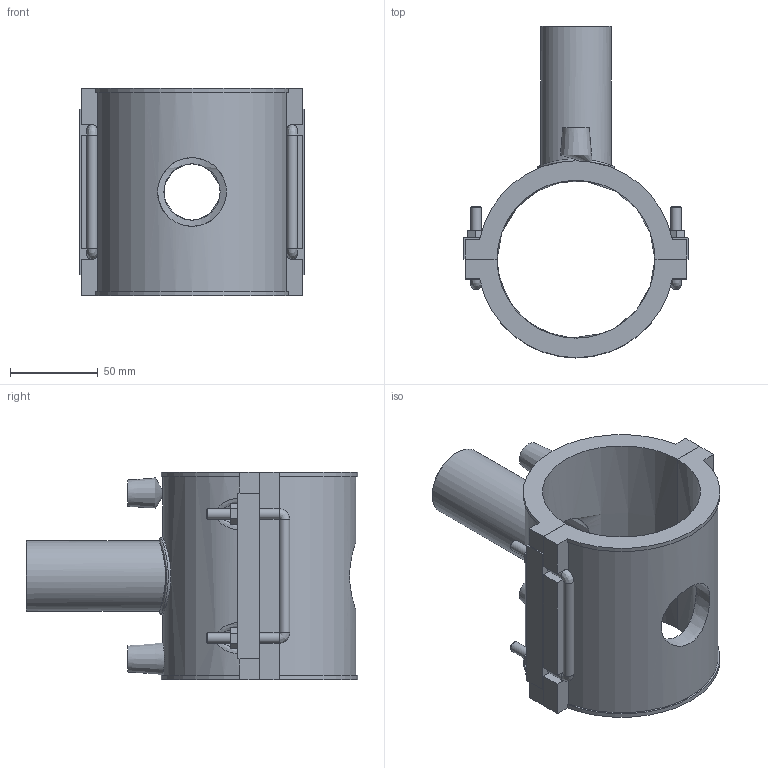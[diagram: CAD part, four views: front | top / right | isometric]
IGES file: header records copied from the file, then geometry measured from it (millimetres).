
Global section: file name: 495804090040.ipt; native system: Autodesk Inventor 2015; preprocessor: unknown; author: KIM; date: 20180426.120830; units: millimetre
Bounding box: 128 x 189.1 x 118 mm (x, y, z)
Volume: 447963.2 mm3; surface area: 120048.8 mm2
Topology: 2 solids, 2 shells, 133 faces, 340 edges, 214 vertices
Faces by surface type: plane 85, cylinder 22, revolution 10, bspline 9, cone 7
Full cylindrical faces by diameter (mm): 4 x2, 6 x10, 40 x1, 44 x1
